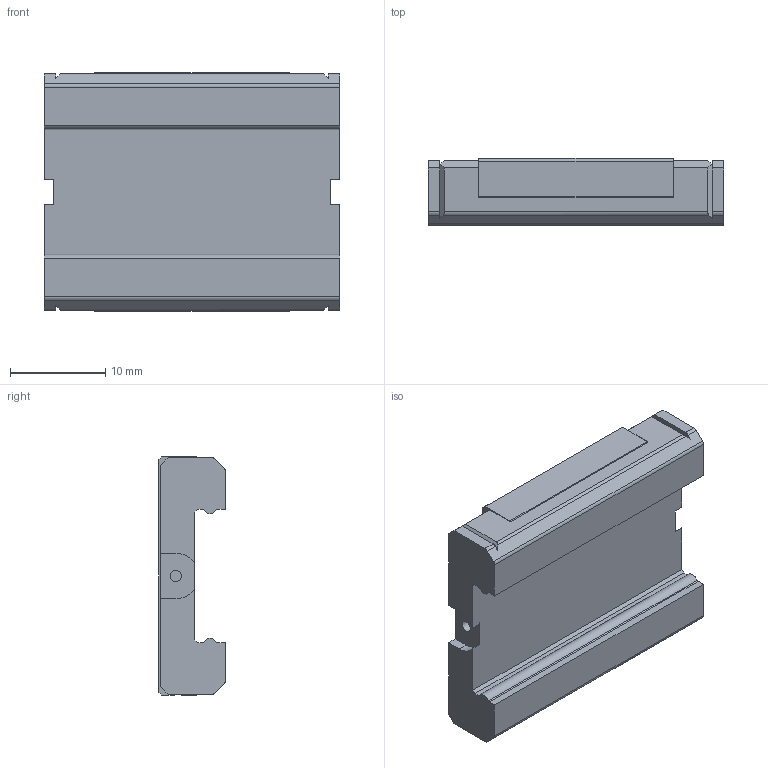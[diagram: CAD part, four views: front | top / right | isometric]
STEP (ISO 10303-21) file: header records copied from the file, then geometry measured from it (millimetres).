
FILE_DESCRIPTION(/* description */ ('STEP AP214'),/* implementation_level */ '2;1');
FILE_NAME(/* name */ 'SRS7WMUU(GK) BLOCK(1)',/* time_stamp */ '2023-06-01T09:52:39+02:00',/* author */ ('License CC BY-ND 4.0'),/* organization */ ('CADENAS'),/* preprocessor_version */ 'ST-DEVELOPER v19.3',/* originating_system */ 'PARTsolutions',/* authorisation */ ' ');
FILE_SCHEMA (('AUTOMOTIVE_DESIGN {1 0 10303 214 3 1 1}'));
Length unit declared in the file: millimetre
Products named in the file (2): SRS7WMUU(GK) BLOCK(1); SRS7WMUU1 S
Assembly tree (1 placements, depth 2):
  SRS7WMUU(GK) BLOCK(1)
    SRS7WMUU1 S
Bounding box: 31 x 7 x 25 mm (x, y, z)
Volume: 3817.3 mm3; surface area: 2547 mm2
Topology: 1 solids, 1 shells, 96 faces, 268 edges, 176 vertices
Faces by surface type: plane 63, cylinder 25, cone 8
Full cylindrical faces by diameter (mm): 1.2 x2, 2.459 x4
Entity records: 2989 total; most frequent: CARTESIAN_POINT 516, DIRECTION 500, ORIENTED_EDGE 492, EDGE_CURVE 246, LINE 188, VECTOR 188, VERTEX_POINT 172, AXIS2_PLACEMENT_3D 156
